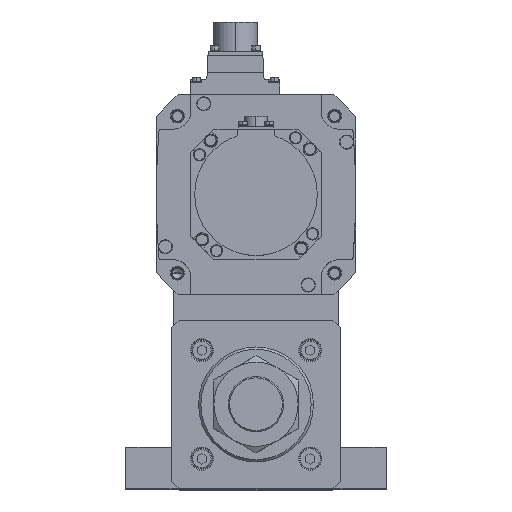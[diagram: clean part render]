
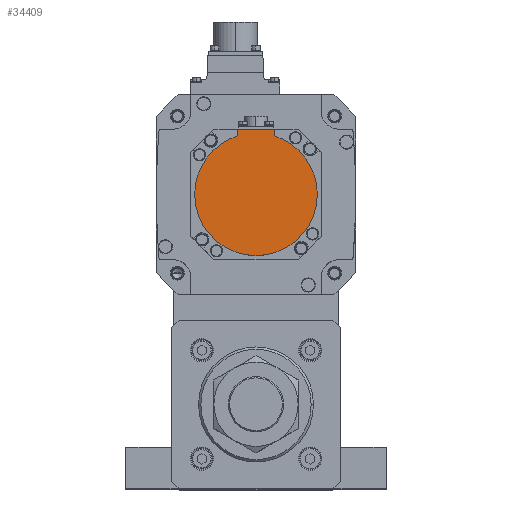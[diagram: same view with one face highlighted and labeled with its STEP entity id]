
A CAD part, top view. The second image highlights one B-rep face of the part: STEP entity #34409.
In plain terms, the highlighted planar face has unit normal (0, 0, 1) as drawn and (0, 0, -1) by its records, which use the part's own axes.
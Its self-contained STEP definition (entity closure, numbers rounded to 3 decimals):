
#1601 = ORIENTED_EDGE ( 'NONE', *, *, #6856, .F. ) ;
#2118 = ORIENTED_EDGE ( 'NONE', *, *, #32656, .T. ) ;
#3922 = AXIS2_PLACEMENT_3D ( 'NONE', #21364, #26660, #26904 ) ;
#4737 = VERTEX_POINT ( 'NONE', #6947 ) ;
#6150 = CARTESIAN_POINT ( 'NONE',  ( 12., -1.249, -132.5 ) ) ;
#6401 = CARTESIAN_POINT ( 'NONE',  ( 12., -38.158, -132.5 ) ) ;
#6856 = EDGE_CURVE ( 'NONE', #19873, #13560, #27395, .T. ) ;
#6947 = CARTESIAN_POINT ( 'NONE',  ( -12., -42.5, -132.5 ) ) ;
#8015 = AXIS2_PLACEMENT_3D ( 'NONE', #22402, #11576, #17138 ) ;
#9370 = ORIENTED_EDGE ( 'NONE', *, *, #27691, .T. ) ;
#9449 = VERTEX_POINT ( 'NONE', #17545 ) ;
#9625 = CIRCLE ( 'NONE', #3922, 40. ) ;
#11576 = DIRECTION ( 'NONE',  ( 0., 0., 1. ) ) ;
#11782 = DIRECTION ( 'NONE',  ( 0., 1., 0. ) ) ;
#12747 = LINE ( 'NONE', #6150, #27918 ) ;
#13002 = AXIS2_PLACEMENT_3D ( 'NONE', #13464, #29975, #18908 ) ;
#13464 = CARTESIAN_POINT ( 'NONE',  ( 0., 0., -132.5 ) ) ;
#13560 = VERTEX_POINT ( 'NONE', #17248 ) ;
#14058 = AXIS2_PLACEMENT_3D ( 'NONE', #31014, #19932, #17355 ) ;
#14496 = PLANE ( 'NONE',  #14058 ) ;
#15204 = ORIENTED_EDGE ( 'NONE', *, *, #20769, .F. ) ;
#15931 = VECTOR ( 'NONE', #33812, 1000. ) ;
#16492 = VECTOR ( 'NONE', #33399, 1000. ) ;
#17138 = DIRECTION ( 'NONE',  ( 1., 0., 0. ) ) ;
#17150 = FACE_OUTER_BOUND ( 'NONE', #23143, .T. ) ;
#17248 = CARTESIAN_POINT ( 'NONE',  ( 40., 0., -132.5 ) ) ;
#17355 = DIRECTION ( 'NONE',  ( 1., 0., 0. ) ) ;
#17545 = CARTESIAN_POINT ( 'NONE',  ( 12., -42.5, -132.5 ) ) ;
#18908 = DIRECTION ( 'NONE',  ( 1., 0., 0. ) ) ;
#19873 = VERTEX_POINT ( 'NONE', #6401 ) ;
#19932 = DIRECTION ( 'NONE',  ( 0., 0., 1. ) ) ;
#19939 = CARTESIAN_POINT ( 'NONE',  ( -12., -38.158, -132.5 ) ) ;
#20769 = EDGE_CURVE ( 'NONE', #26223, #21025, #9625, .T. ) ;
#21025 = VERTEX_POINT ( 'NONE', #19939 ) ;
#21364 = CARTESIAN_POINT ( 'NONE',  ( 0., 0., -132.5 ) ) ;
#22196 = ORIENTED_EDGE ( 'NONE', *, *, #30900, .F. ) ;
#22402 = CARTESIAN_POINT ( 'NONE',  ( 0., 0., -132.5 ) ) ;
#23143 = EDGE_LOOP ( 'NONE', ( #9370, #15204, #22196, #1601, #31927, #2118 ) ) ;
#23926 = LINE ( 'NONE', #25544, #15931 ) ;
#25241 = CARTESIAN_POINT ( 'NONE',  ( -12., -40.329, -132.5 ) ) ;
#25544 = CARTESIAN_POINT ( 'NONE',  ( 0., -42.5, -132.5 ) ) ;
#26223 = VERTEX_POINT ( 'NONE', #29596 ) ;
#26428 = EDGE_CURVE ( 'NONE', #9449, #19873, #12747, .T. ) ;
#26660 = DIRECTION ( 'NONE',  ( 0., 0., 1. ) ) ;
#26904 = DIRECTION ( 'NONE',  ( 1., 0., 0. ) ) ;
#27395 = CIRCLE ( 'NONE', #8015, 40. ) ;
#27691 = EDGE_CURVE ( 'NONE', #4737, #21025, #29986, .T. ) ;
#27886 = CIRCLE ( 'NONE', #13002, 40. ) ;
#27918 = VECTOR ( 'NONE', #11782, 1000. ) ;
#29596 = CARTESIAN_POINT ( 'NONE',  ( -40., 0., -132.5 ) ) ;
#29975 = DIRECTION ( 'NONE',  ( 0., 0., 1. ) ) ;
#29986 = LINE ( 'NONE', #25241, #16492 ) ;
#30900 = EDGE_CURVE ( 'NONE', #13560, #26223, #27886, .T. ) ;
#31014 = CARTESIAN_POINT ( 'NONE',  ( 0., -1.249, -132.5 ) ) ;
#31927 = ORIENTED_EDGE ( 'NONE', *, *, #26428, .F. ) ;
#32656 = EDGE_CURVE ( 'NONE', #9449, #4737, #23926, .T. ) ;
#33399 = DIRECTION ( 'NONE',  ( 0., 1., 0. ) ) ;
#33812 = DIRECTION ( 'NONE',  ( -1., 0., 0. ) ) ;
#34409 = ADVANCED_FACE ( 'NONE', ( #17150 ), #14496, .F. ) ;
